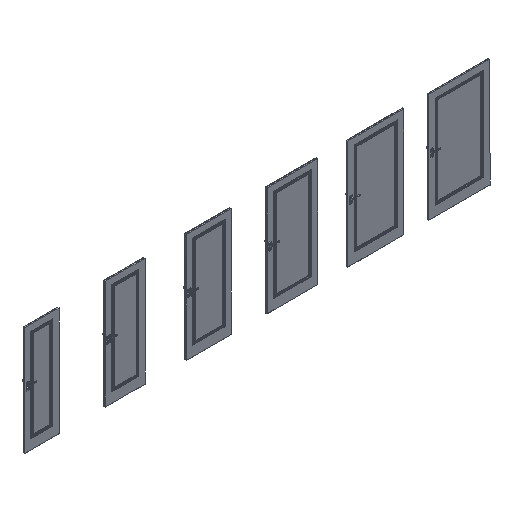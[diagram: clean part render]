
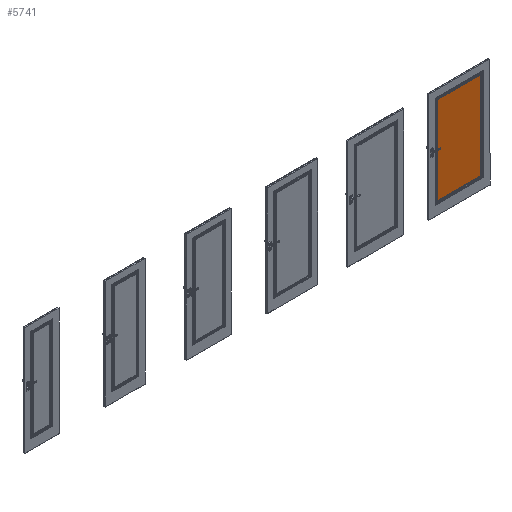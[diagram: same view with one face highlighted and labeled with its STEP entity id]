
A CAD part, isometric view. The second image highlights one B-rep face of the part: STEP entity #5741.
In plain terms, the highlighted planar face has unit normal (0, -1, 0).
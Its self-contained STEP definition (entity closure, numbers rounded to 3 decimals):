
#5741=ADVANCED_FACE('',(#9102),#7329,.F.);
#7329=PLANE('',#40374);
#9102=FACE_OUTER_BOUND('',#11644,.T.);
#11644=EDGE_LOOP('',(#19294,#19295,#19296,#19297));
#19294=ORIENTED_EDGE('',*,*,#30310,.T.);
#19295=ORIENTED_EDGE('',*,*,#30311,.T.);
#19296=ORIENTED_EDGE('',*,*,#30305,.T.);
#19297=ORIENTED_EDGE('',*,*,#30308,.T.);
#25724=VERTEX_POINT('',#63036);
#25725=VERTEX_POINT('',#63038);
#25726=VERTEX_POINT('',#63042);
#25727=VERTEX_POINT('',#63046);
#30305=EDGE_CURVE('',#25725,#25724,#34867,.T.);
#30308=EDGE_CURVE('',#25724,#25726,#34870,.T.);
#30310=EDGE_CURVE('',#25726,#25727,#34872,.T.);
#30311=EDGE_CURVE('',#25727,#25725,#34873,.T.);
#34867=LINE('',#63037,#38359);
#34870=LINE('',#63043,#38362);
#34872=LINE('',#63047,#38364);
#34873=LINE('',#63049,#38365);
#38359=VECTOR('',#45756,1.);
#38362=VECTOR('',#45761,1.);
#38364=VECTOR('',#45765,1.);
#38365=VECTOR('',#45768,1.);
#40374=AXIS2_PLACEMENT_3D('',#63051,#45771,#45772);
#45756=DIRECTION('',(0.,0.,-1.));
#45761=DIRECTION('',(1.,0.,0.));
#45765=DIRECTION('',(0.,0.,1.));
#45768=DIRECTION('',(-1.,0.,0.));
#45771=DIRECTION('',(0.,1.,0.));
#45772=DIRECTION('',(-1.,0.,0.));
#63036=CARTESIAN_POINT('',(7349.15,-39.3,236.15));
#63037=CARTESIAN_POINT('',(7349.15,-39.3,1047.5));
#63038=CARTESIAN_POINT('',(7349.15,-39.3,1858.85));
#63042=CARTESIAN_POINT('',(8150.85,-39.3,236.15));
#63043=CARTESIAN_POINT('',(7750.,-39.3,236.15));
#63046=CARTESIAN_POINT('',(8150.85,-39.3,1858.85));
#63047=CARTESIAN_POINT('',(8150.85,-39.3,1047.5));
#63049=CARTESIAN_POINT('',(7549.575,-39.3,1858.85));
#63051=CARTESIAN_POINT('',(7579.131,-39.3,2027.));
